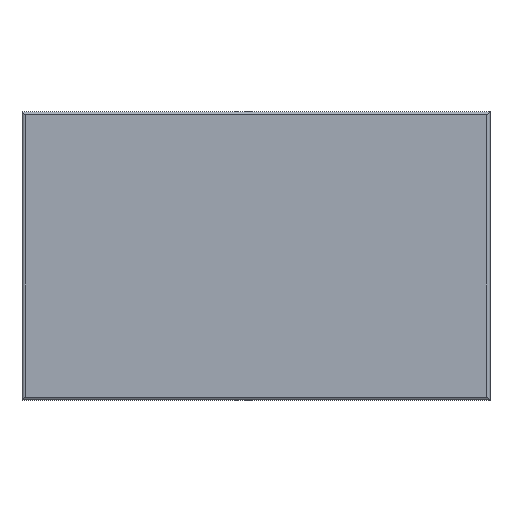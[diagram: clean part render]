
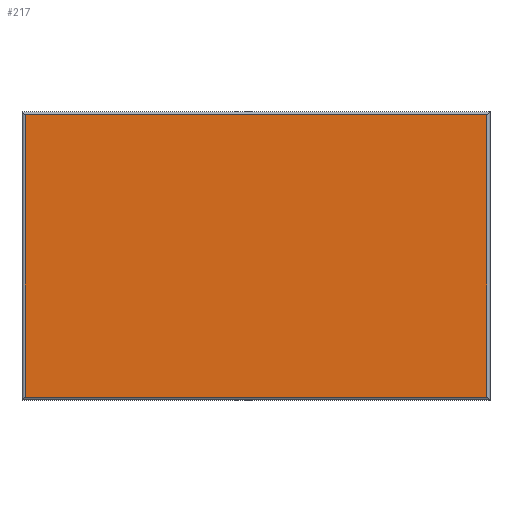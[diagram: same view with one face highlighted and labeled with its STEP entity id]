
A CAD part, top view. The second image highlights one B-rep face of the part: STEP entity #217.
In plain terms, the highlighted planar face has unit normal (0, 0, 1).
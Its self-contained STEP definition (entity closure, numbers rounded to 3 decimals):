
#19=PLANE('',#259);
#33=FACE_OUTER_BOUND('',#47,.T.);
#47=EDGE_LOOP('',(#189,#190,#191,#192));
#70=LINE('',#366,#90);
#71=LINE('',#371,#91);
#73=LINE('',#377,#93);
#75=LINE('',#381,#95);
#90=VECTOR('',#300,10.);
#91=VECTOR('',#307,10.);
#93=VECTOR('',#313,10.);
#95=VECTOR('',#319,10.);
#108=VERTEX_POINT('',#364);
#109=VERTEX_POINT('',#365);
#110=VERTEX_POINT('',#370);
#112=VERTEX_POINT('',#376);
#130=EDGE_CURVE('',#108,#109,#70,.T.);
#133=EDGE_CURVE('',#109,#110,#71,.T.);
#136=EDGE_CURVE('',#110,#112,#73,.T.);
#139=EDGE_CURVE('',#112,#108,#75,.T.);
#189=ORIENTED_EDGE('',*,*,#130,.F.);
#190=ORIENTED_EDGE('',*,*,#139,.F.);
#191=ORIENTED_EDGE('',*,*,#136,.F.);
#192=ORIENTED_EDGE('',*,*,#133,.F.);
#217=ADVANCED_FACE('',(#33),#19,.T.);
#259=AXIS2_PLACEMENT_3D('',#384,#323,#324);
#300=DIRECTION('',(-1.,0.,0.));
#307=DIRECTION('',(0.,1.,0.));
#313=DIRECTION('',(1.,0.,0.));
#319=DIRECTION('',(0.,-1.,0.));
#323=DIRECTION('center_axis',(0.,0.,1.));
#324=DIRECTION('ref_axis',(1.,0.,0.));
#364=CARTESIAN_POINT('',(72.,-44.,3.));
#365=CARTESIAN_POINT('',(-72.,-44.,3.));
#366=CARTESIAN_POINT('',(36.5,-44.,3.));
#370=CARTESIAN_POINT('',(-72.,44.,3.));
#371=CARTESIAN_POINT('',(-72.,-22.5,3.));
#376=CARTESIAN_POINT('',(72.,44.,3.));
#377=CARTESIAN_POINT('',(-36.5,44.,3.));
#381=CARTESIAN_POINT('',(72.,22.5,3.));
#384=CARTESIAN_POINT('Origin',(0.,0.,3.));
